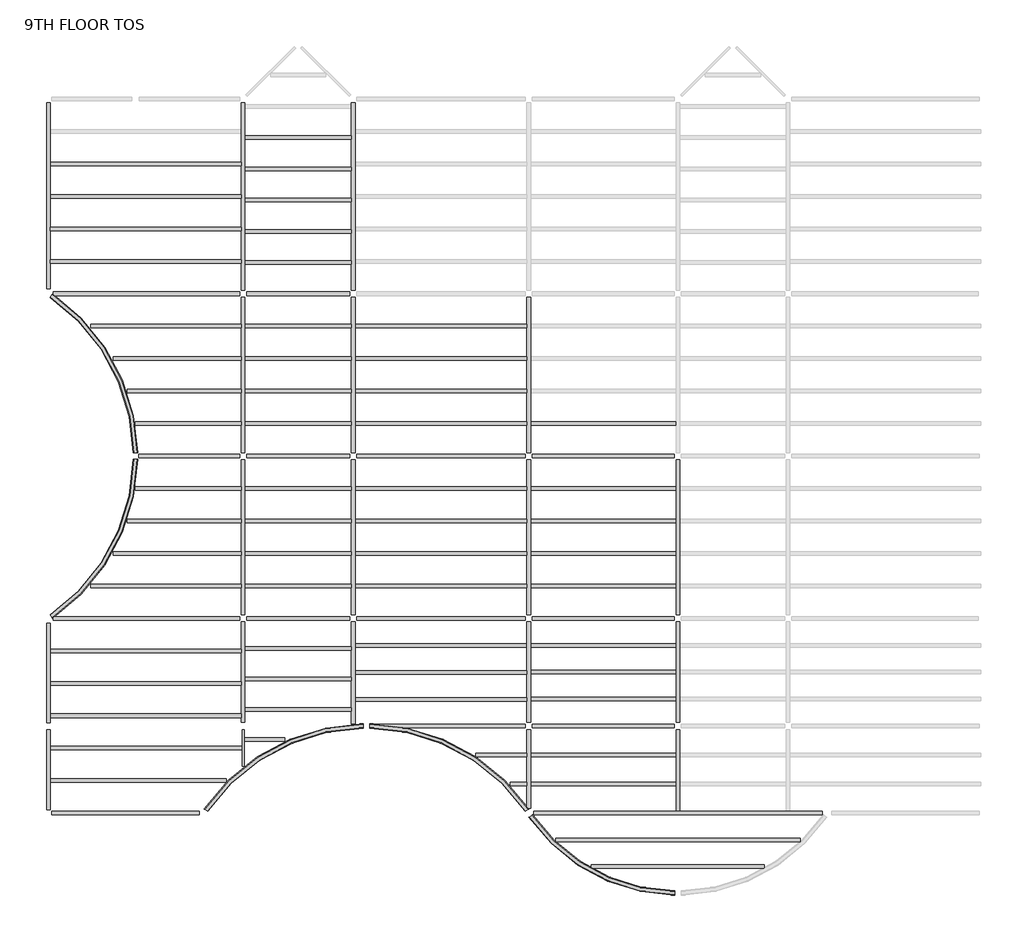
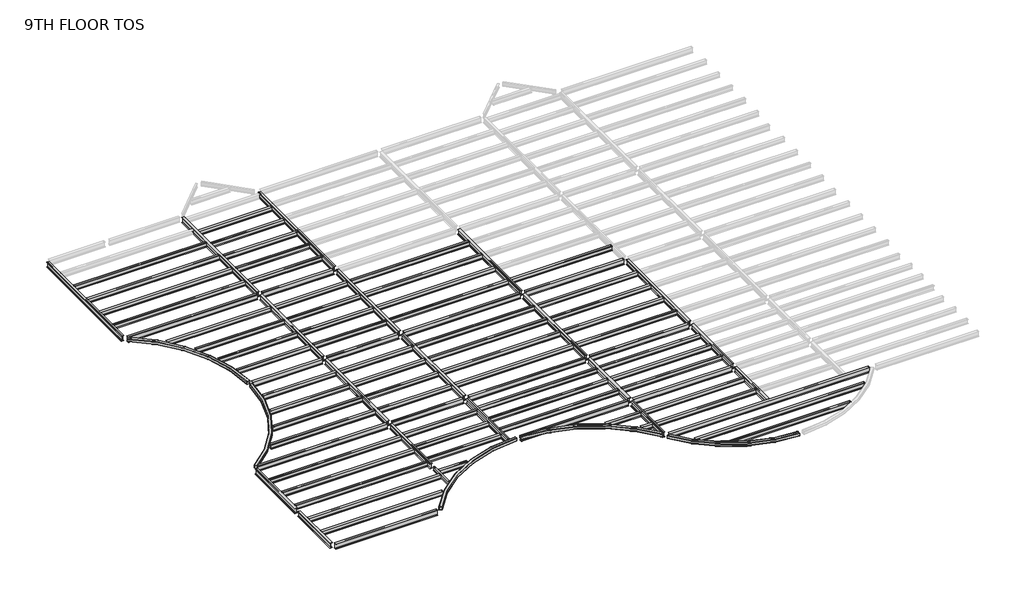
# One storey, part 1 of 2: 97 beams.
"""IFC4 building model written with IfcOpenShell, lengths in millimetres."""

from ifc_helpers import new_model, si_unit, origin, place, context, project, spatial, transform, mapped, element, save
from components import m_hss_square_hss203_2x203_2x9_5_914ff4eb, m_hss_square_hss203_2x203_2x9_5_0e3d8e6e, m_hss_square_hss203_2x203_2x9_5_16dc1c03, m_hss_square_hss203_2x203_2x9_5_18346204, m_hss_square_hss203_2x203_2x9_5_d5f1e8c4, ub_universal_beams_ub254x102x28_4e7f3726, ub_universal_beams_ub305x165x40_c4d0385b, ub_universal_beams_ub305x165x40_d3abc31d, ub_universal_beams_ub305x165x40_0c73730f, ub_universal_beams_ub305x165x40_2a963f0c, ub_universal_beams_ub305x165x40_0a5f2f96, ub_universal_beams_ub305x165x40_d1f7c369, ub_universal_beams_ub305x165x40_83d7b7d5, ub_universal_beams_ub305x165x40_729a4ea5, ub_universal_beams_ub305x165x40_71dfa851, ub_universal_beams_ub305x165x40_619b5398, ub_universal_beams_ub305x165x40_c3492db1, ub_universal_beams_ub305x165x40_8f1c350d, ub_universal_beams_ub305x165x40_3afb5f90, ub_universal_beams_ub305x165x40_767d1929, ub_universal_beams_ub305x165x40_5941ca45, ub_universal_beams_ub356x171x51_ef72dcdd, ub_universal_beams_ub356x171x51_7f80702c, ub_universal_beams_ub356x171x51_dfc36663, ub_universal_beams_ub356x171x51_405a853e, ub_universal_beams_ub356x171x51_e47b7055, ub_universal_beams_ub356x171x51_e97f8d2e, ub_universal_beams_ub356x171x51_11d6b780, ub_universal_beams_ub356x171x51_76b2d20b, ub_universal_beams_ub356x171x51_145ecd4b, ub_universal_beams_ub356x171x51_c7dff8d2, ub_universal_beams_ub356x171x51_834c6e34, ub_universal_beams_ub356x171x51_a38b99de, ub_universal_beams_ub356x171x51_d8f4cdde, ub_universal_beams_ub356x171x51_8094f821, ub_universal_beams_ub356x171x51_c03c70fb, ub_universal_beams_ub356x171x51_e661f2e4, ub_universal_beams_ub356x171x51_3ee91673, ub_universal_beams_ub356x171x51_a871b283, ub_universal_beams_ub356x171x51_741bae58

model = new_model("IFC4")

# Units and contexts
model_context = context("Model", 3, world=origin())
ifc_project = project(units=[si_unit("LENGTHUNIT", "METRE", prefix="MILLI")], contexts=[model_context])

# Site, building, storey
site = spatial("IfcSite", under=ifc_project)
building = spatial("IfcBuilding", under=site)
storey = spatial("IfcBuildingStorey", under=building, Name="9TH FLOOR TOS", Elevation=40995.6)

# Beams
placement = place(None, origin())
m_hss_square_hss203_2x203_2x9_5_shape = m_hss_square_hss203_2x203_2x9_5_914ff4eb(model_context)
element("IfcBeam", 1, ObjectType="M_HSS Square : HSS203.2X203.2X9.5", at=placement, inside=storey, context=model_context, shape_type="MappedRepresentation", body=[
    mapped(m_hss_square_hss203_2x203_2x9_5_shape, transform((22710.575, 155.575, 40894.1), x_axis=(-0.552849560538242, 0.8332810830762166, 0.0), y_axis=(-0.8332810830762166, -0.552849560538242, 0.0), z_axis=(0.0, 0.0, 1.0))),
])
m_hss_square_hss203_2x203_2x9_5_2_shape = m_hss_square_hss203_2x203_2x9_5_0e3d8e6e(model_context)
element("IfcBeam", 2, ObjectType="M_HSS Square : HSS203.2X203.2X9.5", at=placement, inside=storey, context=model_context, shape_type="MappedRepresentation", body=[
    mapped(m_hss_square_hss203_2x203_2x9_5_2_shape, transform((155.575, 9299.575, 40894.1), x_axis=(0.8332810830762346, 0.5528495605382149, 0.0), y_axis=(-0.5528495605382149, 0.8332810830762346, 0.0), z_axis=(0.0, 0.0, 1.0))),
])
m_hss_square_hss203_2x203_2x9_5_3_shape = m_hss_square_hss203_2x203_2x9_5_16dc1c03(model_context)
element("IfcBeam", 3, ObjectType="M_HSS Square : HSS203.2X203.2X9.5", at=placement, inside=storey, context=model_context, shape_type="MappedRepresentation", body=[
    mapped(m_hss_square_hss203_2x203_2x9_5_3_shape, transform((155.575, 24539.575, 40894.1), x_axis=(0.8332810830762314, -0.5528495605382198, 0.0), y_axis=(0.5528495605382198, 0.8332810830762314, 0.0), z_axis=(0.0, 0.0, 1.0))),
])
m_hss_square_hss203_2x203_2x9_5_4_shape = m_hss_square_hss203_2x203_2x9_5_18346204(model_context)
element("IfcBeam", 4, ObjectType="M_HSS Square : HSS203.2X203.2X9.5", at=placement, inside=storey, context=model_context, shape_type="MappedRepresentation", body=[
    mapped(m_hss_square_hss203_2x203_2x9_5_4_shape, transform((29734.7266693, -3601.398624, 40894.1), x_axis=(-0.9999968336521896, -0.0025164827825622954, 0.0), y_axis=(0.0025164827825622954, -0.9999968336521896, 0.0), z_axis=(0.0, 0.0, 1.0))),
])
m_hss_square_hss203_2x203_2x9_5_5_shape = m_hss_square_hss203_2x203_2x9_5_d5f1e8c4(model_context)
element("IfcBeam", 5, ObjectType="M_HSS Square : HSS203.2X203.2X9.5", at=placement, inside=storey, context=model_context, shape_type="MappedRepresentation", body=[
    mapped(m_hss_square_hss203_2x203_2x9_5_5_shape, transform((15096.4572854, 4244.5731081, 40894.1), x_axis=(-0.9999997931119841, 0.0006432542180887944, 0.0), y_axis=(-0.0006432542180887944, -0.9999997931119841, 0.0), z_axis=(0.0, 0.0, 1.0))),
])
ub_universal_beams_ub254x102x28_shape = ub_universal_beams_ub254x102x28_4e7f3726(model_context)
element("IfcBeam", 6, ObjectType="UB-Universal Beams : UB254x102x28", at=placement, inside=storey, context=model_context, shape_type="MappedRepresentation", body=[
    mapped(ub_universal_beams_ub254x102x28_shape, transform((9299.575, 3210.915913, 40865.4), x_axis=(0.0, -1.0, 0.0), y_axis=(1.0, 0.0, 0.0), z_axis=(0.0, 0.0, 1.0))),
])
ub_universal_beams_ub305x165x40_shape = ub_universal_beams_ub305x165x40_c4d0385b(model_context)
element("IfcBeam", 7, ObjectType="UB-Universal Beams : UB305x165x40", at=placement, inside=storey, context=model_context, shape_type="MappedRepresentation", body=[
    mapped(ub_universal_beams_ub305x165x40_shape, transform((4727.575, 30635.575, 40843.9), x_axis=(1.0, 0.0, 0.0), y_axis=(0.0, 1.0, 0.0), z_axis=(0.0, 0.0, 1.0))),
])
element("IfcBeam", 8, ObjectType="UB-Universal Beams : UB305x165x40", at=placement, inside=storey, context=model_context, shape_type="MappedRepresentation", body=[
    mapped(ub_universal_beams_ub305x165x40_shape, transform((4727.575, 29111.575, 40843.9), x_axis=(1.0, 0.0, 0.0), y_axis=(0.0, 1.0, 0.0), z_axis=(0.0, 0.0, 1.0))),
])
element("IfcBeam", 9, ObjectType="UB-Universal Beams : UB305x165x40", at=placement, inside=storey, context=model_context, shape_type="MappedRepresentation", body=[
    mapped(ub_universal_beams_ub305x165x40_shape, transform((4727.575, 27587.575, 40843.9), x_axis=(1.0, 0.0, 0.0), y_axis=(0.0, 1.0, 0.0), z_axis=(0.0, 0.0, 1.0))),
])
element("IfcBeam", 10, ObjectType="UB-Universal Beams : UB305x165x40", at=placement, inside=storey, context=model_context, shape_type="MappedRepresentation", body=[
    mapped(ub_universal_beams_ub305x165x40_shape, transform((4727.575, 26063.575, 40843.9), x_axis=(1.0, 0.0, 0.0), y_axis=(0.0, 1.0, 0.0), z_axis=(0.0, 0.0, 1.0))),
])
element("IfcBeam", 11, ObjectType="UB-Universal Beams : UB305x165x40", at=placement, inside=storey, context=model_context, shape_type="MappedRepresentation", body=[
    mapped(ub_universal_beams_ub305x165x40_shape, transform((4727.575, 4727.575, 40843.9), x_axis=(-1.0, 0.0, 0.0), y_axis=(0.0, -1.0, 0.0), z_axis=(0.0, 0.0, 1.0))),
])
element("IfcBeam", 12, ObjectType="UB-Universal Beams : UB305x165x40", at=placement, inside=storey, context=model_context, shape_type="MappedRepresentation", body=[
    mapped(ub_universal_beams_ub305x165x40_shape, transform((4727.575, 6251.575, 40843.9), x_axis=(-1.0, 0.0, 0.0), y_axis=(0.0, -1.0, 0.0), z_axis=(0.0, 0.0, 1.0))),
])
element("IfcBeam", 13, ObjectType="UB-Universal Beams : UB305x165x40", at=placement, inside=storey, context=model_context, shape_type="MappedRepresentation", body=[
    mapped(ub_universal_beams_ub305x165x40_shape, transform((4727.575, 7775.575, 40843.9), x_axis=(-1.0, 0.0, 0.0), y_axis=(0.0, -1.0, 0.0), z_axis=(0.0, 0.0, 1.0))),
])
ub_universal_beams_ub305x165x40_2_shape = ub_universal_beams_ub305x165x40_d3abc31d(model_context)
element("IfcBeam", 14, ObjectType="UB-Universal Beams : UB305x165x40", at=placement, inside=storey, context=model_context, shape_type="MappedRepresentation", body=[
    mapped(ub_universal_beams_ub305x165x40_2_shape, transform((11885.575, 31870.825, 40843.9), x_axis=(1.0, 0.0, 0.0), y_axis=(0.0, 1.0, 0.0), z_axis=(0.0, 0.0, 1.0))),
])
element("IfcBeam", 15, ObjectType="UB-Universal Beams : UB305x165x40", at=placement, inside=storey, context=model_context, shape_type="MappedRepresentation", body=[
    mapped(ub_universal_beams_ub305x165x40_2_shape, transform((11885.575, 30404.575, 40843.9), x_axis=(1.0, 0.0, 0.0), y_axis=(0.0, 1.0, 0.0), z_axis=(0.0, 0.0, 1.0))),
])
element("IfcBeam", 16, ObjectType="UB-Universal Beams : UB305x165x40", at=placement, inside=storey, context=model_context, shape_type="MappedRepresentation", body=[
    mapped(ub_universal_beams_ub305x165x40_2_shape, transform((11885.575, 28938.325, 40843.9), x_axis=(1.0, 0.0, 0.0), y_axis=(0.0, 1.0, 0.0), z_axis=(0.0, 0.0, 1.0))),
])
element("IfcBeam", 17, ObjectType="UB-Universal Beams : UB305x165x40", at=placement, inside=storey, context=model_context, shape_type="MappedRepresentation", body=[
    mapped(ub_universal_beams_ub305x165x40_2_shape, transform((11885.575, 27472.075, 40843.9), x_axis=(1.0, 0.0, 0.0), y_axis=(0.0, 1.0, 0.0), z_axis=(0.0, 0.0, 1.0))),
])
element("IfcBeam", 18, ObjectType="UB-Universal Beams : UB305x165x40", at=placement, inside=storey, context=model_context, shape_type="MappedRepresentation", body=[
    mapped(ub_universal_beams_ub305x165x40_2_shape, transform((11885.575, 26005.825, 40843.9), x_axis=(1.0, 0.0, 0.0), y_axis=(0.0, 1.0, 0.0), z_axis=(0.0, 0.0, 1.0))),
])
element("IfcBeam", 19, ObjectType="UB-Universal Beams : UB305x165x40", at=placement, inside=storey, context=model_context, shape_type="MappedRepresentation", body=[
    mapped(ub_universal_beams_ub305x165x40_2_shape, transform((11885.575, 23015.575, 40843.9), x_axis=(1.0, 0.0, 0.0), y_axis=(0.0, 1.0, 0.0), z_axis=(0.0, 0.0, 1.0))),
])
element("IfcBeam", 20, ObjectType="UB-Universal Beams : UB305x165x40", at=placement, inside=storey, context=model_context, shape_type="MappedRepresentation", body=[
    mapped(ub_universal_beams_ub305x165x40_2_shape, transform((11885.575, 21491.575, 40843.9), x_axis=(1.0, 0.0, 0.0), y_axis=(0.0, 1.0, 0.0), z_axis=(0.0, 0.0, 1.0))),
])
element("IfcBeam", 21, ObjectType="UB-Universal Beams : UB305x165x40", at=placement, inside=storey, context=model_context, shape_type="MappedRepresentation", body=[
    mapped(ub_universal_beams_ub305x165x40_2_shape, transform((11885.575, 19967.575, 40843.9), x_axis=(1.0, 0.0, 0.0), y_axis=(0.0, 1.0, 0.0), z_axis=(0.0, 0.0, 1.0))),
])
element("IfcBeam", 22, ObjectType="UB-Universal Beams : UB305x165x40", at=placement, inside=storey, context=model_context, shape_type="MappedRepresentation", body=[
    mapped(ub_universal_beams_ub305x165x40_2_shape, transform((11885.575, 18443.575, 40843.9), x_axis=(1.0, 0.0, 0.0), y_axis=(0.0, 1.0, 0.0), z_axis=(0.0, 0.0, 1.0))),
])
element("IfcBeam", 23, ObjectType="UB-Universal Beams : UB305x165x40", at=placement, inside=storey, context=model_context, shape_type="MappedRepresentation", body=[
    mapped(ub_universal_beams_ub305x165x40_2_shape, transform((11885.575, 15395.575, 40843.9), x_axis=(1.0, 0.0, 0.0), y_axis=(0.0, 1.0, 0.0), z_axis=(0.0, 0.0, 1.0))),
])
element("IfcBeam", 24, ObjectType="UB-Universal Beams : UB305x165x40", at=placement, inside=storey, context=model_context, shape_type="MappedRepresentation", body=[
    mapped(ub_universal_beams_ub305x165x40_2_shape, transform((11885.575, 13871.575, 40843.9), x_axis=(1.0, 0.0, 0.0), y_axis=(0.0, 1.0, 0.0), z_axis=(0.0, 0.0, 1.0))),
])
element("IfcBeam", 25, ObjectType="UB-Universal Beams : UB305x165x40", at=placement, inside=storey, context=model_context, shape_type="MappedRepresentation", body=[
    mapped(ub_universal_beams_ub305x165x40_2_shape, transform((11885.575, 12347.575, 40843.9), x_axis=(1.0, 0.0, 0.0), y_axis=(0.0, 1.0, 0.0), z_axis=(0.0, 0.0, 1.0))),
])
element("IfcBeam", 26, ObjectType="UB-Universal Beams : UB305x165x40", at=placement, inside=storey, context=model_context, shape_type="MappedRepresentation", body=[
    mapped(ub_universal_beams_ub305x165x40_2_shape, transform((11885.575, 10823.575, 40843.9), x_axis=(1.0, 0.0, 0.0), y_axis=(0.0, 1.0, 0.0), z_axis=(0.0, 0.0, 1.0))),
])
element("IfcBeam", 27, ObjectType="UB-Universal Beams : UB305x165x40", at=placement, inside=storey, context=model_context, shape_type="MappedRepresentation", body=[
    mapped(ub_universal_beams_ub305x165x40_2_shape, transform((11885.575, 5026.1840956, 40843.9), x_axis=(-1.0, 0.0, 0.0), y_axis=(0.0, -1.0, 0.0), z_axis=(0.0, 0.0, 1.0))),
])
element("IfcBeam", 28, ObjectType="UB-Universal Beams : UB305x165x40", at=placement, inside=storey, context=model_context, shape_type="MappedRepresentation", body=[
    mapped(ub_universal_beams_ub305x165x40_2_shape, transform((11885.575, 6450.6477304, 40843.9), x_axis=(-1.0, 0.0, 0.0), y_axis=(0.0, -1.0, 0.0), z_axis=(0.0, 0.0, 1.0))),
])
element("IfcBeam", 29, ObjectType="UB-Universal Beams : UB305x165x40", at=placement, inside=storey, context=model_context, shape_type="MappedRepresentation", body=[
    mapped(ub_universal_beams_ub305x165x40_2_shape, transform((11885.575, 7875.1113652, 40843.9), x_axis=(-1.0, 0.0, 0.0), y_axis=(0.0, -1.0, 0.0), z_axis=(0.0, 0.0, 1.0))),
])
ub_universal_beams_ub305x165x40_3_shape = ub_universal_beams_ub305x165x40_0c73730f(model_context)
element("IfcBeam", 30, ObjectType="UB-Universal Beams : UB305x165x40", at=placement, inside=storey, context=model_context, shape_type="MappedRepresentation", body=[
    mapped(ub_universal_beams_ub305x165x40_3_shape, transform((18591.075, 5492.5943214, 40843.9), x_axis=(-1.0, 0.0, 0.0), y_axis=(0.0, -1.0, 0.0), z_axis=(0.0, 0.0, 1.0))),
])
element("IfcBeam", 31, ObjectType="UB-Universal Beams : UB305x165x40", at=placement, inside=storey, context=model_context, shape_type="MappedRepresentation", body=[
    mapped(ub_universal_beams_ub305x165x40_3_shape, transform((18591.075, 6761.5878809, 40843.9), x_axis=(-1.0, 0.0, 0.0), y_axis=(0.0, -1.0, 0.0), z_axis=(0.0, 0.0, 1.0))),
])
element("IfcBeam", 32, ObjectType="UB-Universal Beams : UB305x165x40", at=placement, inside=storey, context=model_context, shape_type="MappedRepresentation", body=[
    mapped(ub_universal_beams_ub305x165x40_3_shape, transform((18591.075, 8030.5814405, 40843.9), x_axis=(-1.0, 0.0, 0.0), y_axis=(0.0, -1.0, 0.0), z_axis=(0.0, 0.0, 1.0))),
])
element("IfcBeam", 33, ObjectType="UB-Universal Beams : UB305x165x40", at=placement, inside=storey, context=model_context, shape_type="MappedRepresentation", body=[
    mapped(ub_universal_beams_ub305x165x40_3_shape, transform((18591.075, 15395.575, 40843.9), x_axis=(1.0, 0.0, 0.0), y_axis=(0.0, 1.0, 0.0), z_axis=(0.0, 0.0, 1.0))),
])
element("IfcBeam", 34, ObjectType="UB-Universal Beams : UB305x165x40", at=placement, inside=storey, context=model_context, shape_type="MappedRepresentation", body=[
    mapped(ub_universal_beams_ub305x165x40_3_shape, transform((18591.075, 13871.575, 40843.9), x_axis=(1.0, 0.0, 0.0), y_axis=(0.0, 1.0, 0.0), z_axis=(0.0, 0.0, 1.0))),
])
element("IfcBeam", 35, ObjectType="UB-Universal Beams : UB305x165x40", at=placement, inside=storey, context=model_context, shape_type="MappedRepresentation", body=[
    mapped(ub_universal_beams_ub305x165x40_3_shape, transform((18591.075, 12347.575, 40843.9), x_axis=(1.0, 0.0, 0.0), y_axis=(0.0, 1.0, 0.0), z_axis=(0.0, 0.0, 1.0))),
])
element("IfcBeam", 36, ObjectType="UB-Universal Beams : UB305x165x40", at=placement, inside=storey, context=model_context, shape_type="MappedRepresentation", body=[
    mapped(ub_universal_beams_ub305x165x40_3_shape, transform((18591.075, 10823.575, 40843.9), x_axis=(1.0, 0.0, 0.0), y_axis=(0.0, 1.0, 0.0), z_axis=(0.0, 0.0, 1.0))),
])
element("IfcBeam", 37, ObjectType="UB-Universal Beams : UB305x165x40", at=placement, inside=storey, context=model_context, shape_type="MappedRepresentation", body=[
    mapped(ub_universal_beams_ub305x165x40_3_shape, transform((18591.075, 23015.575, 40843.9), x_axis=(1.0, 0.0, 0.0), y_axis=(0.0, 1.0, 0.0), z_axis=(0.0, 0.0, 1.0))),
])
element("IfcBeam", 38, ObjectType="UB-Universal Beams : UB305x165x40", at=placement, inside=storey, context=model_context, shape_type="MappedRepresentation", body=[
    mapped(ub_universal_beams_ub305x165x40_3_shape, transform((18591.075, 21491.575, 40843.9), x_axis=(1.0, 0.0, 0.0), y_axis=(0.0, 1.0, 0.0), z_axis=(0.0, 0.0, 1.0))),
])
element("IfcBeam", 39, ObjectType="UB-Universal Beams : UB305x165x40", at=placement, inside=storey, context=model_context, shape_type="MappedRepresentation", body=[
    mapped(ub_universal_beams_ub305x165x40_3_shape, transform((18591.075, 19967.575, 40843.9), x_axis=(1.0, 0.0, 0.0), y_axis=(0.0, 1.0, 0.0), z_axis=(0.0, 0.0, 1.0))),
])
element("IfcBeam", 40, ObjectType="UB-Universal Beams : UB305x165x40", at=placement, inside=storey, context=model_context, shape_type="MappedRepresentation", body=[
    mapped(ub_universal_beams_ub305x165x40_3_shape, transform((18591.075, 18443.575, 40843.9), x_axis=(1.0, 0.0, 0.0), y_axis=(0.0, 1.0, 0.0), z_axis=(0.0, 0.0, 1.0))),
])
ub_universal_beams_ub305x165x40_4_shape = ub_universal_beams_ub305x165x40_2a963f0c(model_context)
element("IfcBeam", 41, ObjectType="UB-Universal Beams : UB305x165x40", at=placement, inside=storey, context=model_context, shape_type="MappedRepresentation", body=[
    mapped(ub_universal_beams_ub305x165x40_4_shape, transform((26211.075, 18443.575, 40843.9), x_axis=(1.0, 0.0, 0.0), y_axis=(0.0, 1.0, 0.0), z_axis=(0.0, 0.0, 1.0))),
])
element("IfcBeam", 42, ObjectType="UB-Universal Beams : UB305x165x40", at=placement, inside=storey, context=model_context, shape_type="MappedRepresentation", body=[
    mapped(ub_universal_beams_ub305x165x40_4_shape, transform((26211.075, 15395.575, 40843.9), x_axis=(1.0, 0.0, 0.0), y_axis=(0.0, 1.0, 0.0), z_axis=(0.0, 0.0, 1.0))),
])
element("IfcBeam", 43, ObjectType="UB-Universal Beams : UB305x165x40", at=placement, inside=storey, context=model_context, shape_type="MappedRepresentation", body=[
    mapped(ub_universal_beams_ub305x165x40_4_shape, transform((26211.075, 13871.575, 40843.9), x_axis=(1.0, 0.0, 0.0), y_axis=(0.0, 1.0, 0.0), z_axis=(0.0, 0.0, 1.0))),
])
element("IfcBeam", 44, ObjectType="UB-Universal Beams : UB305x165x40", at=placement, inside=storey, context=model_context, shape_type="MappedRepresentation", body=[
    mapped(ub_universal_beams_ub305x165x40_4_shape, transform((26211.075, 12347.575, 40843.9), x_axis=(1.0, 0.0, 0.0), y_axis=(0.0, 1.0, 0.0), z_axis=(0.0, 0.0, 1.0))),
])
element("IfcBeam", 45, ObjectType="UB-Universal Beams : UB305x165x40", at=placement, inside=storey, context=model_context, shape_type="MappedRepresentation", body=[
    mapped(ub_universal_beams_ub305x165x40_4_shape, transform((26211.075, 10823.575, 40843.9), x_axis=(1.0, 0.0, 0.0), y_axis=(0.0, 1.0, 0.0), z_axis=(0.0, 0.0, 1.0))),
])
element("IfcBeam", 46, ObjectType="UB-Universal Beams : UB305x165x40", at=placement, inside=storey, context=model_context, shape_type="MappedRepresentation", body=[
    mapped(ub_universal_beams_ub305x165x40_4_shape, transform((26211.075, 5508.325, 40843.9), x_axis=(-1.0, 0.0, 0.0), y_axis=(0.0, -1.0, 0.0), z_axis=(0.0, 0.0, 1.0))),
])
element("IfcBeam", 47, ObjectType="UB-Universal Beams : UB305x165x40", at=placement, inside=storey, context=model_context, shape_type="MappedRepresentation", body=[
    mapped(ub_universal_beams_ub305x165x40_4_shape, transform((26211.075, 6772.075, 40843.9), x_axis=(-1.0, 0.0, 0.0), y_axis=(0.0, -1.0, 0.0), z_axis=(0.0, 0.0, 1.0))),
])
element("IfcBeam", 48, ObjectType="UB-Universal Beams : UB305x165x40", at=placement, inside=storey, context=model_context, shape_type="MappedRepresentation", body=[
    mapped(ub_universal_beams_ub305x165x40_4_shape, transform((26211.075, 8035.825, 40843.9), x_axis=(-1.0, 0.0, 0.0), y_axis=(0.0, -1.0, 0.0), z_axis=(0.0, 0.0, 1.0))),
])
element("IfcBeam", 49, ObjectType="UB-Universal Beams : UB305x165x40", at=placement, inside=storey, context=model_context, shape_type="MappedRepresentation", body=[
    mapped(ub_universal_beams_ub305x165x40_4_shape, transform((26211.075, 1518.575, 40843.9), x_axis=(-1.0, 0.0, 0.0), y_axis=(0.0, -1.0, 0.0), z_axis=(0.0, 0.0, 1.0))),
])
element("IfcBeam", 50, ObjectType="UB-Universal Beams : UB305x165x40", at=placement, inside=storey, context=model_context, shape_type="MappedRepresentation", body=[
    mapped(ub_universal_beams_ub305x165x40_4_shape, transform((26211.075, 2881.575, 40843.9), x_axis=(-1.0, 0.0, 0.0), y_axis=(0.0, -1.0, 0.0), z_axis=(0.0, 0.0, 1.0))),
])
ub_universal_beams_ub305x165x40_5_shape = ub_universal_beams_ub305x165x40_0a5f2f96(model_context)
element("IfcBeam", 51, ObjectType="UB-Universal Beams : UB305x165x40", at=placement, inside=storey, context=model_context, shape_type="MappedRepresentation", body=[
    mapped(ub_universal_beams_ub305x165x40_5_shape, transform((29713.575, -2349.0918253, 40843.9), x_axis=(-1.0, 0.0, 0.0), y_axis=(0.0, -1.0, 0.0), z_axis=(0.0, 0.0, 1.0))),
])
ub_universal_beams_ub305x165x40_6_shape = ub_universal_beams_ub305x165x40_d1f7c369(model_context)
element("IfcBeam", 52, ObjectType="UB-Universal Beams : UB305x165x40", at=placement, inside=storey, context=model_context, shape_type="MappedRepresentation", body=[
    mapped(ub_universal_beams_ub305x165x40_6_shape, transform((29713.575, -1096.7584126, 40843.9), x_axis=(-1.0, 0.0, 0.0), y_axis=(0.0, -1.0, 0.0), z_axis=(0.0, 0.0, 1.0))),
])
ub_universal_beams_ub305x165x40_7_shape = ub_universal_beams_ub305x165x40_83d7b7d5(model_context)
element("IfcBeam", 53, ObjectType="UB-Universal Beams : UB305x165x40", at=placement, inside=storey, context=model_context, shape_type="MappedRepresentation", body=[
    mapped(ub_universal_beams_ub305x165x40_7_shape, transform((22157.3041106, 1518.575, 40843.9), x_axis=(-1.0, 0.0, 0.0), y_axis=(0.0, -1.0, 0.0), z_axis=(0.0, 0.0, 1.0))),
])
ub_universal_beams_ub305x165x40_8_shape = ub_universal_beams_ub305x165x40_729a4ea5(model_context)
element("IfcBeam", 54, ObjectType="UB-Universal Beams : UB305x165x40", at=placement, inside=storey, context=model_context, shape_type="MappedRepresentation", body=[
    mapped(ub_universal_beams_ub305x165x40_8_shape, transform((21302.1545844, 2881.575, 40843.9), x_axis=(-1.0, 0.0, 0.0), y_axis=(0.0, -1.0, 0.0), z_axis=(0.0, 0.0, 1.0))),
])
ub_universal_beams_ub305x165x40_9_shape = ub_universal_beams_ub305x165x40_71dfa851(model_context)
element("IfcBeam", 55, ObjectType="UB-Universal Beams : UB305x165x40", at=placement, inside=storey, context=model_context, shape_type="MappedRepresentation", body=[
    mapped(ub_universal_beams_ub305x165x40_9_shape, transform((10511.0323166, 3601.7204608, 40843.9), x_axis=(-1.0, 0.0, 0.0), y_axis=(0.0, -1.0, 0.0), z_axis=(0.0, 0.0, 1.0))),
])
ub_universal_beams_ub305x165x40_10_shape = ub_universal_beams_ub305x165x40_619b5398(model_context)
element("IfcBeam", 56, ObjectType="UB-Universal Beams : UB305x165x40", at=placement, inside=storey, context=model_context, shape_type="MappedRepresentation", body=[
    mapped(ub_universal_beams_ub305x165x40_10_shape, transform((4447.6838282, 1679.575, 40843.9), x_axis=(-1.0, 0.0, 0.0), y_axis=(0.0, -1.0, 0.0), z_axis=(0.0, 0.0, 1.0))),
])
ub_universal_beams_ub305x165x40_11_shape = ub_universal_beams_ub305x165x40_c3492db1(model_context)
element("IfcBeam", 57, ObjectType="UB-Universal Beams : UB305x165x40", at=placement, inside=storey, context=model_context, shape_type="MappedRepresentation", body=[
    mapped(ub_universal_beams_ub305x165x40_11_shape, transform((4727.575, 3203.575, 40843.9), x_axis=(-1.0, 0.0, 0.0), y_axis=(0.0, -1.0, 0.0), z_axis=(0.0, 0.0, 1.0))),
])
ub_universal_beams_ub305x165x40_12_shape = ub_universal_beams_ub305x165x40_8f1c350d(model_context)
element("IfcBeam", 58, ObjectType="UB-Universal Beams : UB305x165x40", at=placement, inside=storey, context=model_context, shape_type="MappedRepresentation", body=[
    mapped(ub_universal_beams_ub305x165x40_12_shape, transform((6708.1318611, 15395.575, 40843.9), x_axis=(1.0, 0.0, 0.0), y_axis=(0.0, 1.0, 0.0), z_axis=(0.0, 0.0, 1.0))),
])
element("IfcBeam", 59, ObjectType="UB-Universal Beams : UB305x165x40", at=placement, inside=storey, context=model_context, shape_type="MappedRepresentation", body=[
    mapped(ub_universal_beams_ub305x165x40_12_shape, transform((6708.1318611, 18443.575, 40843.9), x_axis=(1.0, 0.0, 0.0), y_axis=(0.0, 1.0, 0.0), z_axis=(0.0, 0.0, 1.0))),
])
ub_universal_beams_ub305x165x40_13_shape = ub_universal_beams_ub305x165x40_3afb5f90(model_context)
element("IfcBeam", 60, ObjectType="UB-Universal Beams : UB305x165x40", at=placement, inside=storey, context=model_context, shape_type="MappedRepresentation", body=[
    mapped(ub_universal_beams_ub305x165x40_13_shape, transform((6510.6153272, 13871.575, 40843.9), x_axis=(1.0, 0.0, 0.0), y_axis=(0.0, 1.0, 0.0), z_axis=(0.0, 0.0, 1.0))),
])
element("IfcBeam", 61, ObjectType="UB-Universal Beams : UB305x165x40", at=placement, inside=storey, context=model_context, shape_type="MappedRepresentation", body=[
    mapped(ub_universal_beams_ub305x165x40_13_shape, transform((6510.6153272, 19967.575, 40843.9), x_axis=(1.0, 0.0, 0.0), y_axis=(0.0, 1.0, 0.0), z_axis=(0.0, 0.0, 1.0))),
])
ub_universal_beams_ub305x165x40_14_shape = ub_universal_beams_ub305x165x40_767d1929(model_context)
element("IfcBeam", 62, ObjectType="UB-Universal Beams : UB305x165x40", at=placement, inside=storey, context=model_context, shape_type="MappedRepresentation", body=[
    mapped(ub_universal_beams_ub305x165x40_14_shape, transform((6159.5874928, 12347.575, 40843.9), x_axis=(1.0, 0.0, 0.0), y_axis=(0.0, 1.0, 0.0), z_axis=(0.0, 0.0, 1.0))),
])
element("IfcBeam", 63, ObjectType="UB-Universal Beams : UB305x165x40", at=placement, inside=storey, context=model_context, shape_type="MappedRepresentation", body=[
    mapped(ub_universal_beams_ub305x165x40_14_shape, transform((6159.5874928, 21491.575, 40843.9), x_axis=(1.0, 0.0, 0.0), y_axis=(0.0, 1.0, 0.0), z_axis=(0.0, 0.0, 1.0))),
])
ub_universal_beams_ub305x165x40_15_shape = ub_universal_beams_ub305x165x40_5941ca45(model_context)
element("IfcBeam", 64, ObjectType="UB-Universal Beams : UB305x165x40", at=placement, inside=storey, context=model_context, shape_type="MappedRepresentation", body=[
    mapped(ub_universal_beams_ub305x165x40_15_shape, transform((5607.9405309, 10823.575, 40843.9), x_axis=(1.0, 0.0, 0.0), y_axis=(0.0, 1.0, 0.0), z_axis=(0.0, 0.0, 1.0))),
])
element("IfcBeam", 65, ObjectType="UB-Universal Beams : UB305x165x40", at=placement, inside=storey, context=model_context, shape_type="MappedRepresentation", body=[
    mapped(ub_universal_beams_ub305x165x40_15_shape, transform((5607.9405309, 23015.575, 40843.9), x_axis=(1.0, 0.0, 0.0), y_axis=(0.0, 1.0, 0.0), z_axis=(0.0, 0.0, 1.0))),
])
ub_universal_beams_ub356x171x51_shape = ub_universal_beams_ub356x171x51_ef72dcdd(model_context)
element("IfcBeam", 66, ObjectType="UB-Universal Beams : UB356x171x51", at=placement, inside=storey, context=model_context, shape_type="MappedRepresentation", body=[
    mapped(ub_universal_beams_ub356x171x51_shape, transform((9299.575, 6772.075, 40818.1), x_axis=(0.0, -1.0, 0.0), y_axis=(1.0, 0.0, 0.0), z_axis=(0.0, 0.0, 1.0))),
])
element("IfcBeam", 67, ObjectType="UB-Universal Beams : UB356x171x51", at=placement, inside=storey, context=model_context, shape_type="MappedRepresentation", body=[
    mapped(ub_universal_beams_ub356x171x51_shape, transform((29711.575, 6772.075, 40818.1), x_axis=(0.0, 1.0, 0.0), y_axis=(-1.0, 0.0, 0.0), z_axis=(0.0, 0.0, 1.0))),
])
element("IfcBeam", 68, ObjectType="UB-Universal Beams : UB356x171x51", at=placement, inside=storey, context=model_context, shape_type="MappedRepresentation", body=[
    mapped(ub_universal_beams_ub356x171x51_shape, transform((22710.575, 6772.075, 40818.1), x_axis=(0.0, -1.0, 0.0), y_axis=(1.0, 0.0, 0.0), z_axis=(0.0, 0.0, 1.0))),
])
ub_universal_beams_ub356x171x51_2_shape = ub_universal_beams_ub356x171x51_7f80702c(model_context)
element("IfcBeam", 69, ObjectType="UB-Universal Beams : UB356x171x51", at=placement, inside=storey, context=model_context, shape_type="MappedRepresentation", body=[
    mapped(ub_universal_beams_ub356x171x51_2_shape, transform((3813.075, 155.575, 40818.1), x_axis=(-1.0, 0.0, 0.0), y_axis=(0.0, -1.0, 0.0), z_axis=(0.0, 0.0, 1.0))),
])
ub_universal_beams_ub356x171x51_3_shape = ub_universal_beams_ub356x171x51_dfc36663(model_context)
element("IfcBeam", 70, ObjectType="UB-Universal Beams : UB356x171x51", at=placement, inside=storey, context=model_context, shape_type="MappedRepresentation", body=[
    mapped(ub_universal_beams_ub356x171x51_3_shape, transform((155.575, 2200.075, 40818.1), x_axis=(0.0, 1.0, 0.0), y_axis=(-1.0, 0.0, 0.0), z_axis=(0.0, 0.0, 1.0))),
])
ub_universal_beams_ub356x171x51_4_shape = ub_universal_beams_ub356x171x51_405a853e(model_context)
element("IfcBeam", 71, ObjectType="UB-Universal Beams : UB356x171x51", at=placement, inside=storey, context=model_context, shape_type="MappedRepresentation", body=[
    mapped(ub_universal_beams_ub356x171x51_4_shape, transform((155.575, 6772.075, 40818.1), x_axis=(0.0, 1.0, 0.0), y_axis=(-1.0, 0.0, 0.0), z_axis=(0.0, 0.0, 1.0))),
])
ub_universal_beams_ub356x171x51_5_shape = ub_universal_beams_ub356x171x51_e47b7055(model_context)
element("IfcBeam", 72, ObjectType="UB-Universal Beams : UB356x171x51", at=placement, inside=storey, context=model_context, shape_type="MappedRepresentation", body=[
    mapped(ub_universal_beams_ub356x171x51_5_shape, transform((155.575, 29111.575, 40818.1), x_axis=(0.0, 1.0, 0.0), y_axis=(-1.0, 0.0, 0.0), z_axis=(0.0, 0.0, 1.0))),
])
ub_universal_beams_ub356x171x51_6_shape = ub_universal_beams_ub356x171x51_e97f8d2e(model_context)
element("IfcBeam", 73, ObjectType="UB-Universal Beams : UB356x171x51", at=placement, inside=storey, context=model_context, shape_type="MappedRepresentation", body=[
    mapped(ub_universal_beams_ub356x171x51_6_shape, transform((4727.575, 24539.575, 40818.1), x_axis=(1.0, 0.0, 0.0), y_axis=(0.0, 1.0, 0.0), z_axis=(0.0, 0.0, 1.0))),
])
ub_universal_beams_ub356x171x51_7_shape = ub_universal_beams_ub356x171x51_11d6b780(model_context)
element("IfcBeam", 74, ObjectType="UB-Universal Beams : UB356x171x51", at=placement, inside=storey, context=model_context, shape_type="MappedRepresentation", body=[
    mapped(ub_universal_beams_ub356x171x51_7_shape, transform((11885.575, 24539.575, 40818.1), x_axis=(1.0, 0.0, 0.0), y_axis=(0.0, 1.0, 0.0), z_axis=(0.0, 0.0, 1.0))),
])
element("IfcBeam", 75, ObjectType="UB-Universal Beams : UB356x171x51", at=placement, inside=storey, context=model_context, shape_type="MappedRepresentation", body=[
    mapped(ub_universal_beams_ub356x171x51_7_shape, transform((11885.575, 9299.575, 40818.1), x_axis=(-1.0, 0.0, 0.0), y_axis=(0.0, -1.0, 0.0), z_axis=(0.0, 0.0, 1.0))),
])
element("IfcBeam", 76, ObjectType="UB-Universal Beams : UB356x171x51", at=placement, inside=storey, context=model_context, shape_type="MappedRepresentation", body=[
    mapped(ub_universal_beams_ub356x171x51_7_shape, transform((11885.575, 16919.575, 40818.1), x_axis=(1.0, 0.0, 0.0), y_axis=(0.0, 1.0, 0.0), z_axis=(0.0, 0.0, 1.0))),
])
ub_universal_beams_ub356x171x51_8_shape = ub_universal_beams_ub356x171x51_76b2d20b(model_context)
element("IfcBeam", 77, ObjectType="UB-Universal Beams : UB356x171x51", at=placement, inside=storey, context=model_context, shape_type="MappedRepresentation", body=[
    mapped(ub_universal_beams_ub356x171x51_8_shape, transform((18591.075, 9299.575, 40818.1), x_axis=(-1.0, 0.0, 0.0), y_axis=(0.0, -1.0, 0.0), z_axis=(0.0, 0.0, 1.0))),
])
element("IfcBeam", 78, ObjectType="UB-Universal Beams : UB356x171x51", at=placement, inside=storey, context=model_context, shape_type="MappedRepresentation", body=[
    mapped(ub_universal_beams_ub356x171x51_8_shape, transform((18591.075, 16919.575, 40818.1), x_axis=(1.0, 0.0, 0.0), y_axis=(0.0, 1.0, 0.0), z_axis=(0.0, 0.0, 1.0))),
])
ub_universal_beams_ub356x171x51_9_shape = ub_universal_beams_ub356x171x51_145ecd4b(model_context)
element("IfcBeam", 79, ObjectType="UB-Universal Beams : UB356x171x51", at=placement, inside=storey, context=model_context, shape_type="MappedRepresentation", body=[
    mapped(ub_universal_beams_ub356x171x51_9_shape, transform((26211.075, 9299.575, 40818.1), x_axis=(-1.0, 0.0, 0.0), y_axis=(0.0, -1.0, 0.0), z_axis=(0.0, 0.0, 1.0))),
])
element("IfcBeam", 80, ObjectType="UB-Universal Beams : UB356x171x51", at=placement, inside=storey, context=model_context, shape_type="MappedRepresentation", body=[
    mapped(ub_universal_beams_ub356x171x51_9_shape, transform((26211.075, 16919.575, 40818.1), x_axis=(1.0, 0.0, 0.0), y_axis=(0.0, 1.0, 0.0), z_axis=(0.0, 0.0, 1.0))),
])
element("IfcBeam", 81, ObjectType="UB-Universal Beams : UB356x171x51", at=placement, inside=storey, context=model_context, shape_type="MappedRepresentation", body=[
    mapped(ub_universal_beams_ub356x171x51_9_shape, transform((26211.075, 4244.575, 40818.1), x_axis=(-1.0, 0.0, 0.0), y_axis=(0.0, -1.0, 0.0), z_axis=(0.0, 0.0, 1.0))),
])
ub_universal_beams_ub356x171x51_10_shape = ub_universal_beams_ub356x171x51_c7dff8d2(model_context)
element("IfcBeam", 82, ObjectType="UB-Universal Beams : UB356x171x51", at=placement, inside=storey, context=model_context, shape_type="MappedRepresentation", body=[
    mapped(ub_universal_beams_ub356x171x51_10_shape, transform((4727.575, 9299.575, 40818.1), x_axis=(-1.0, 0.0, 0.0), y_axis=(0.0, -1.0, 0.0), z_axis=(0.0, 0.0, 1.0))),
])
ub_universal_beams_ub356x171x51_11_shape = ub_universal_beams_ub356x171x51_834c6e34(model_context)
element("IfcBeam", 83, ObjectType="UB-Universal Beams : UB356x171x51", at=placement, inside=storey, context=model_context, shape_type="MappedRepresentation", body=[
    mapped(ub_universal_beams_ub356x171x51_11_shape, transform((14471.575, 6761.5878809, 40818.1), x_axis=(0.0, -1.0, 0.0), y_axis=(1.0, 0.0, 0.0), z_axis=(0.0, 0.0, 1.0))),
])
ub_universal_beams_ub356x171x51_12_shape = ub_universal_beams_ub356x171x51_a38b99de(model_context)
element("IfcBeam", 84, ObjectType="UB-Universal Beams : UB356x171x51", at=placement, inside=storey, context=model_context, shape_type="MappedRepresentation", body=[
    mapped(ub_universal_beams_ub356x171x51_12_shape, transform((9299.575, 13109.575, 40818.1), x_axis=(0.0, 1.0, 0.0), y_axis=(-1.0, 0.0, 0.0), z_axis=(0.0, 0.0, 1.0))),
])
element("IfcBeam", 85, ObjectType="UB-Universal Beams : UB356x171x51", at=placement, inside=storey, context=model_context, shape_type="MappedRepresentation", body=[
    mapped(ub_universal_beams_ub356x171x51_12_shape, transform((9299.575, 20729.575, 40818.1), x_axis=(0.0, 1.0, 0.0), y_axis=(-1.0, 0.0, 0.0), z_axis=(0.0, 0.0, 1.0))),
])
element("IfcBeam", 86, ObjectType="UB-Universal Beams : UB356x171x51", at=placement, inside=storey, context=model_context, shape_type="MappedRepresentation", body=[
    mapped(ub_universal_beams_ub356x171x51_12_shape, transform((14471.575, 20729.575, 40818.1), x_axis=(0.0, -1.0, 0.0), y_axis=(1.0, 0.0, 0.0), z_axis=(0.0, 0.0, 1.0))),
])
element("IfcBeam", 87, ObjectType="UB-Universal Beams : UB356x171x51", at=placement, inside=storey, context=model_context, shape_type="MappedRepresentation", body=[
    mapped(ub_universal_beams_ub356x171x51_12_shape, transform((14471.575, 13109.575, 40818.1), x_axis=(0.0, -1.0, 0.0), y_axis=(1.0, 0.0, 0.0), z_axis=(0.0, 0.0, 1.0))),
])
element("IfcBeam", 88, ObjectType="UB-Universal Beams : UB356x171x51", at=placement, inside=storey, context=model_context, shape_type="MappedRepresentation", body=[
    mapped(ub_universal_beams_ub356x171x51_12_shape, transform((22710.575, 20729.575, 40818.1), x_axis=(0.0, -1.0, 0.0), y_axis=(1.0, 0.0, 0.0), z_axis=(0.0, 0.0, 1.0))),
])
element("IfcBeam", 89, ObjectType="UB-Universal Beams : UB356x171x51", at=placement, inside=storey, context=model_context, shape_type="MappedRepresentation", body=[
    mapped(ub_universal_beams_ub356x171x51_12_shape, transform((22710.575, 13109.575, 40818.1), x_axis=(0.0, -1.0, 0.0), y_axis=(1.0, 0.0, 0.0), z_axis=(0.0, 0.0, 1.0))),
])
element("IfcBeam", 90, ObjectType="UB-Universal Beams : UB356x171x51", at=placement, inside=storey, context=model_context, shape_type="MappedRepresentation", body=[
    mapped(ub_universal_beams_ub356x171x51_12_shape, transform((29711.575, 13109.575, 40818.1), x_axis=(0.0, 1.0, 0.0), y_axis=(-1.0, 0.0, 0.0), z_axis=(0.0, 0.0, 1.0))),
])
ub_universal_beams_ub356x171x51_13_shape = ub_universal_beams_ub356x171x51_d8f4cdde(model_context)
element("IfcBeam", 91, ObjectType="UB-Universal Beams : UB356x171x51", at=placement, inside=storey, context=model_context, shape_type="MappedRepresentation", body=[
    mapped(ub_universal_beams_ub356x171x51_13_shape, transform((9299.575, 29111.575, 40818.1), x_axis=(0.0, 1.0, 0.0), y_axis=(-1.0, 0.0, 0.0), z_axis=(0.0, 0.0, 1.0))),
])
ub_universal_beams_ub356x171x51_14_shape = ub_universal_beams_ub356x171x51_8094f821(model_context)
element("IfcBeam", 92, ObjectType="UB-Universal Beams : UB356x171x51", at=placement, inside=storey, context=model_context, shape_type="MappedRepresentation", body=[
    mapped(ub_universal_beams_ub356x171x51_14_shape, transform((6772.075, 16919.575, 40818.1), x_axis=(1.0, 0.0, 0.0), y_axis=(0.0, 1.0, 0.0), z_axis=(0.0, 0.0, 1.0))),
])
ub_universal_beams_ub356x171x51_15_shape = ub_universal_beams_ub356x171x51_c03c70fb(model_context)
element("IfcBeam", 93, ObjectType="UB-Universal Beams : UB356x171x51", at=placement, inside=storey, context=model_context, shape_type="MappedRepresentation", body=[
    mapped(ub_universal_beams_ub356x171x51_15_shape, transform((14471.575, 29111.575, 40818.1), x_axis=(0.0, -1.0, 0.0), y_axis=(1.0, 0.0, 0.0), z_axis=(0.0, 0.0, 1.0))),
])
ub_universal_beams_ub356x171x51_16_shape = ub_universal_beams_ub356x171x51_e661f2e4(model_context)
element("IfcBeam", 94, ObjectType="UB-Universal Beams : UB356x171x51", at=placement, inside=storey, context=model_context, shape_type="MappedRepresentation", body=[
    mapped(ub_universal_beams_ub356x171x51_16_shape, transform((29713.575, 155.575, 40818.1), x_axis=(-1.0, 0.0, 0.0), y_axis=(0.0, -1.0, 0.0), z_axis=(0.0, 0.0, 1.0))),
])
ub_universal_beams_ub356x171x51_17_shape = ub_universal_beams_ub356x171x51_3ee91673(model_context)
element("IfcBeam", 95, ObjectType="UB-Universal Beams : UB356x171x51", at=placement, inside=storey, context=model_context, shape_type="MappedRepresentation", body=[
    mapped(ub_universal_beams_ub356x171x51_17_shape, transform((18900.575, 4244.575, 40818.1), x_axis=(-1.0, 0.0, 0.0), y_axis=(0.0, -1.0, 0.0), z_axis=(0.0, 0.0, 1.0))),
])
ub_universal_beams_ub356x171x51_18_shape = ub_universal_beams_ub356x171x51_a871b283(model_context)
element("IfcBeam", 96, ObjectType="UB-Universal Beams : UB356x171x51", at=placement, inside=storey, context=model_context, shape_type="MappedRepresentation", body=[
    mapped(ub_universal_beams_ub356x171x51_18_shape, transform((22710.575, 2200.075, 40818.1), x_axis=(0.0, -1.0, 0.0), y_axis=(1.0, 0.0, 0.0), z_axis=(0.0, 0.0, 1.0))),
])
ub_universal_beams_ub356x171x51_19_shape = ub_universal_beams_ub356x171x51_741bae58(model_context)
element("IfcBeam", 97, ObjectType="UB-Universal Beams : UB356x171x51", at=placement, inside=storey, context=model_context, shape_type="MappedRepresentation", body=[
    mapped(ub_universal_beams_ub356x171x51_19_shape, transform((29711.575, 2200.075, 40818.1), x_axis=(0.0, -1.0, 0.0), y_axis=(1.0, 0.0, 0.0), z_axis=(0.0, 0.0, 1.0))),
])

save(model, "model.ifc")
